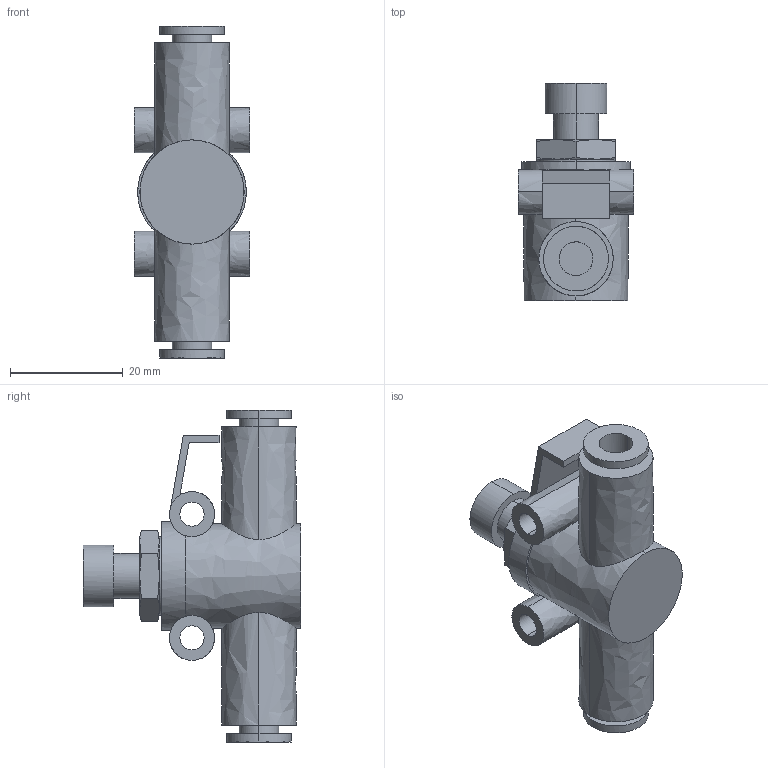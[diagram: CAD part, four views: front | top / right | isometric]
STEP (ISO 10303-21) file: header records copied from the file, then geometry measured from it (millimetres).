
FILE_DESCRIPTION (( 'STEP AP214' ), '1' );
FILE_NAME ('AS3002F-06.STEP', '2023-03-08T10:08:31', ( 'Windows User' ), ( 'P R C' ), 'SwSTEP 2.0', 'SolidWorks 2019', '' );
FILE_SCHEMA (( 'AUTOMOTIVE_DESIGN' ));
Length unit declared in the file: millimetre
Products named in the file (1): AS3002F-06
Bounding box: 20.5 x 38.6 x 59 mm (x, y, z)
Volume: 14021.7 mm3; surface area: 7034.1 mm2
Topology: 1 solids, 1 shells, 71 faces, 170 edges, 112 vertices
Faces by surface type: bspline 38, plane 33
Entity records: 3486 total; most frequent: CARTESIAN_POINT 2318, ORIENTED_EDGE 340, EDGE_CURVE 170, B_SPLINE_CURVE_WITH_KNOTS 130, VERTEX_POINT 112, EDGE_LOOP 86, FACE_OUTER_BOUND 71, ADVANCED_FACE 71
